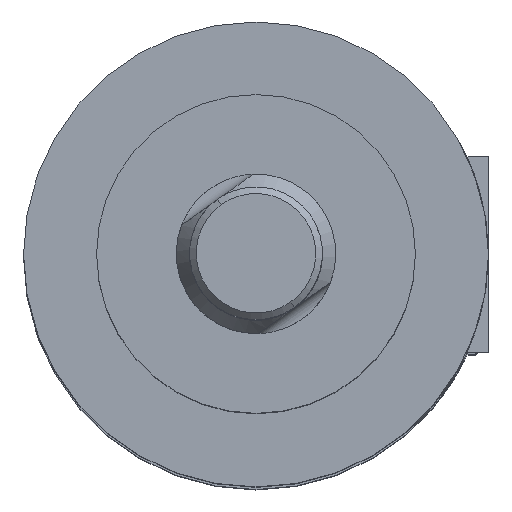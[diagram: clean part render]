
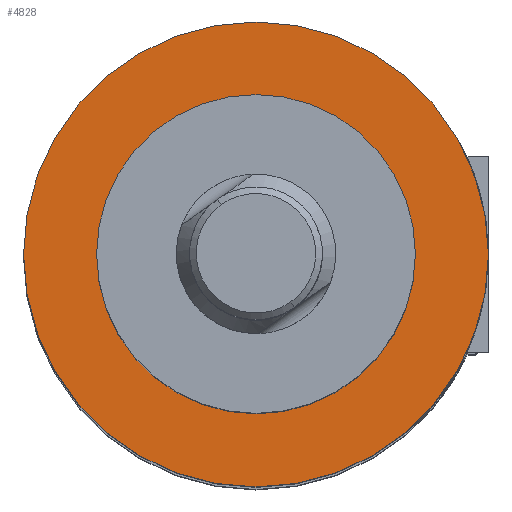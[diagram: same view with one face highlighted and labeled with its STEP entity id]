
A CAD part, top view. The second image highlights one B-rep face of the part: STEP entity #4828.
In plain terms, the highlighted planar face has unit normal (0, 0, 1) as drawn and (0, 0, -1) by its records, which use the part's own axes.
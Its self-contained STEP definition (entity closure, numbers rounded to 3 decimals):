
#230 = CARTESIAN_POINT ( 'NONE',  ( -12., 0., 15. ) ) ;
#374 = EDGE_LOOP ( 'NONE', ( #564, #1943 ) ) ;
#564 = ORIENTED_EDGE ( 'NONE', *, *, #3377, .F. ) ;
#815 = CARTESIAN_POINT ( 'NONE',  ( 0., 0., 15. ) ) ;
#943 = CARTESIAN_POINT ( 'NONE',  ( 12., 0., 15. ) ) ;
#1060 = VERTEX_POINT ( 'NONE', #943 ) ;
#1074 = VERTEX_POINT ( 'NONE', #230 ) ;
#1255 = AXIS2_PLACEMENT_3D ( 'NONE', #4525, #1845, #4986 ) ;
#1283 = DIRECTION ( 'NONE',  ( 1., 0., 0. ) ) ;
#1489 = CARTESIAN_POINT ( 'NONE',  ( 17.5, 0., 15. ) ) ;
#1652 = AXIS2_PLACEMENT_3D ( 'NONE', #1862, #2311, #5457 ) ;
#1707 = AXIS2_PLACEMENT_3D ( 'NONE', #4908, #2224, #5372 ) ;
#1845 = DIRECTION ( 'NONE',  ( 0., 0., 1. ) ) ;
#1862 = CARTESIAN_POINT ( 'NONE',  ( 0., 0., 15. ) ) ;
#1943 = ORIENTED_EDGE ( 'NONE', *, *, #2272, .F. ) ;
#2123 = CIRCLE ( 'NONE', #2658, 12. ) ;
#2191 = CIRCLE ( 'NONE', #1255, 17.5 ) ;
#2224 = DIRECTION ( 'NONE',  ( 0., 0., 1. ) ) ;
#2272 = EDGE_CURVE ( 'NONE', #3478, #4294, #4431, .T. ) ;
#2311 = DIRECTION ( 'NONE',  ( 0., 0., 1. ) ) ;
#2501 = CARTESIAN_POINT ( 'NONE',  ( 0., 0., 15. ) ) ;
#2658 = AXIS2_PLACEMENT_3D ( 'NONE', #815, #3966, #1283 ) ;
#2938 = DIRECTION ( 'NONE',  ( 1., 0., 0. ) ) ;
#3337 = EDGE_LOOP ( 'NONE', ( #3434, #4378 ) ) ;
#3377 = EDGE_CURVE ( 'NONE', #4294, #3478, #2191, .T. ) ;
#3434 = ORIENTED_EDGE ( 'NONE', *, *, #4025, .T. ) ;
#3478 = VERTEX_POINT ( 'NONE', #1489 ) ;
#3573 = EDGE_CURVE ( 'NONE', #1060, #1074, #2123, .T. ) ;
#3966 = DIRECTION ( 'NONE',  ( 0., 0., 1. ) ) ;
#4025 = EDGE_CURVE ( 'NONE', #1074, #1060, #4777, .T. ) ;
#4294 = VERTEX_POINT ( 'NONE', #4482 ) ;
#4378 = ORIENTED_EDGE ( 'NONE', *, *, #3573, .T. ) ;
#4431 = CIRCLE ( 'NONE', #1707, 17.5 ) ;
#4482 = CARTESIAN_POINT ( 'NONE',  ( -17.5, 0., 15. ) ) ;
#4525 = CARTESIAN_POINT ( 'NONE',  ( 0., 0., 15. ) ) ;
#4539 = PLANE ( 'NONE',  #1652 ) ;
#4777 = CIRCLE ( 'NONE', #5718, 12. ) ;
#4828 = ADVANCED_FACE ( 'NONE', ( #4834, #4968 ), #4539, .F. ) ;
#4834 = FACE_OUTER_BOUND ( 'NONE', #374, .T. ) ;
#4908 = CARTESIAN_POINT ( 'NONE',  ( 0., 0., 15. ) ) ;
#4968 = FACE_BOUND ( 'NONE', #3337, .T. ) ;
#4986 = DIRECTION ( 'NONE',  ( 1., 0., 0. ) ) ;
#5372 = DIRECTION ( 'NONE',  ( 1., 0., 0. ) ) ;
#5457 = DIRECTION ( 'NONE',  ( 1., 0., 0. ) ) ;
#5643 = DIRECTION ( 'NONE',  ( 0., 0., 1. ) ) ;
#5718 = AXIS2_PLACEMENT_3D ( 'NONE', #2501, #5643, #2938 ) ;
